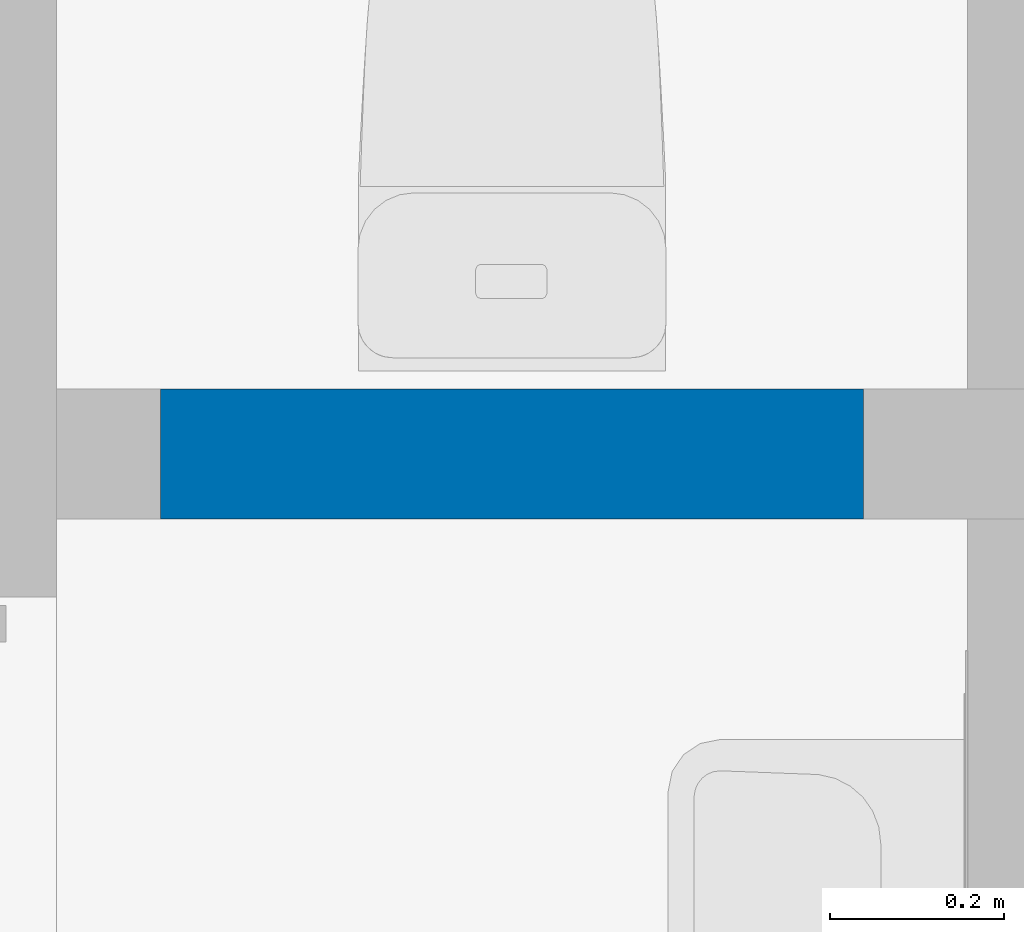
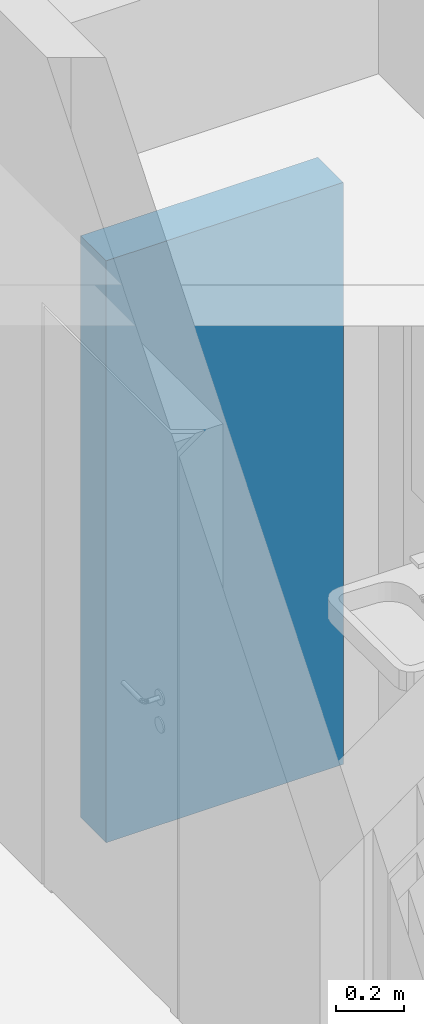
# One storey, part 8 of 58: 1 wall.
"""IFC2X3 building model written with IfcOpenShell, lengths in millimetres."""

from ifc_helpers import new_model, entity, si_unit, converted_unit, derived_unit, direction, frame, frame_2d, origin, place, context, subcontext, project, spatial, rectangle, extrude, material, layer, layer_set, layer_usage, type_object, element, save


model = new_model("IFC2X3")

# Units and contexts
model_context = context("Model", 3, precision=0.01, world=origin(), true_north=direction((0.7716245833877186, 0.6360782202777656)))
body_context = subcontext(model_context, "Body", "Model", "MODEL_VIEW")
ifc_project = project(units=[si_unit("LENGTHUNIT", "METRE", prefix="MILLI"), si_unit("AREAUNIT", "SQUARE_METRE"), converted_unit("PLANEANGLEUNIT", "DEGREE", entity("IfcPlaneAngleMeasure", 0.017453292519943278), si_unit("PLANEANGLEUNIT", "RADIAN"), dimensions=[0, 0, 0, 0, 0, 0, 0]), derived_unit("THERMALTRANSMITTANCEUNIT", [(si_unit("MASSUNIT", "GRAM", prefix="KILO"), 1), (si_unit("THERMODYNAMICTEMPERATUREUNIT", "KELVIN"), -1), (si_unit("TIMEUNIT", "SECOND"), -3)])], contexts=[model_context])

# Site, building, storey
site_placement = place(None, origin())
site = spatial("IfcSite", under=ifc_project, at=site_placement, Name="Default", CompositionType="ELEMENT")
building_placement = place(site_placement, origin())
building = spatial("IfcBuilding", under=site, at=building_placement, CompositionType="ELEMENT")
storey_placement = place(building_placement, frame((0.0, 0.0, 31140.0)))
storey = spatial("IfcBuildingStorey", under=building, at=storey_placement, Name="PLAN U1", CompositionType="ELEMENT", Elevation=31140.000000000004)

# Wall
ifc_material_1 = material(Name="Gips")
ifc_layer_1 = layer(ifc_material_1, 12.5)
ifc_layer_2 = layer(ifc_material_1, 12.5)
ifc_material_2 = material(Name="Stender isolert")
ifc_layer_3 = layer(ifc_material_2, 100.0)
ifc_layer_4 = layer(ifc_material_1, 12.5)
ifc_layer_5 = layer(ifc_material_1, 12.5)
ifc_layer_set = layer_set([ifc_layer_1, ifc_layer_2, ifc_layer_3, ifc_layer_4, ifc_layer_5], Name="Basic Wall:242 IV01 Innervegg 150 mm")
ifc_layer_usage = layer_usage(ifc_layer_set, "AXIS2", "NEGATIVE", 75.0)
wall_type = type_object("IfcWallType", Name="Basic Wall:242 IV01 Innervegg 150 mm", PredefinedType="STANDARD", material=ifc_layer_set)
wall_placement = place(storey_placement, frame((263562.9244464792, 61047.378594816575, 0.0)))
element("IfcWallStandardCase", 1, at=wall_placement, inside=storey, type_object=wall_type, material=ifc_layer_usage, Name="Basic Wall:242 IV01 Innervegg 150 mm", ObjectType="Basic Wall:242 IV01 Innervegg 150 mm", context=body_context, shape_type="SweptSolid", body=[
    extrude(rectangle(XDim=809.9999999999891, YDim=150.00000000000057, at=frame_2d((404.99999999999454, 1.9255708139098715e-12), x_axis=(-1.0, 0.0))), origin(), (0.0, 0.0, 1.0), 2099.999999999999),
])

save(model, "model.ifc")
